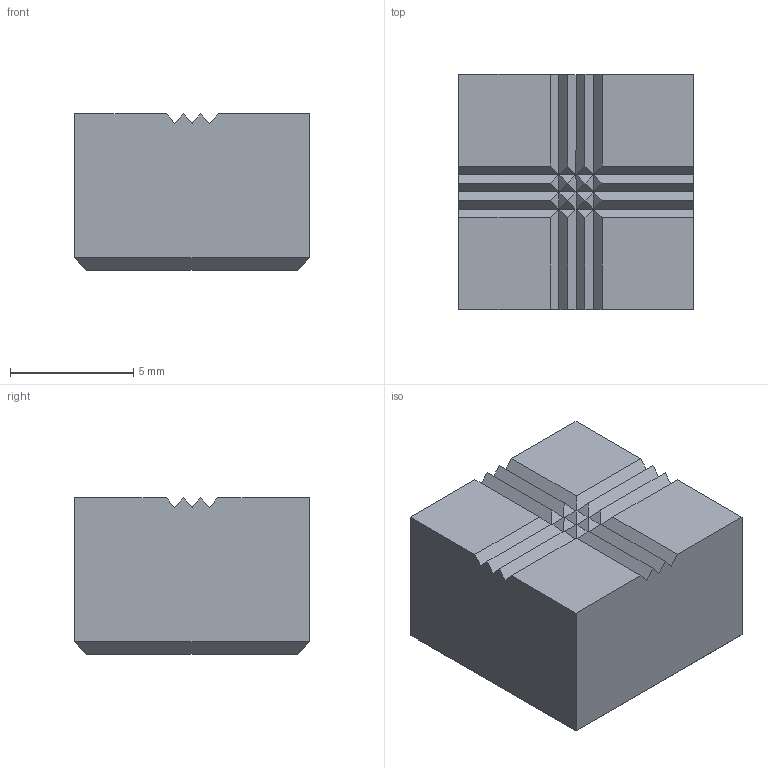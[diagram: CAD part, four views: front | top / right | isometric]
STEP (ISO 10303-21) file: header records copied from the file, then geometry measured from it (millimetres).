
FILE_DESCRIPTION((''),'2;1');
FILE_NAME('3532W001.stp','2001-04-09T10:39:11',(''),(''),'AutoCAD STEP 2000i','AutoCAD 2000i',', , ');
FILE_SCHEMA(('CONFIG_CONTROL_DESIGN'));
Length unit declared in the file: millimetre
Products named in the file (2): 3532C-MDTA; 3532C-MDT
Assembly tree (1 placements, depth 2):
  3532C-MDTA
    3532C-MDT
Bounding box: 9.53 x 9.53 x 6.35 mm (x, y, z)
Volume: 564.7 mm3; surface area: 428.9 mm2
Topology: 1 solids, 1 shells, 61 faces, 124 edges, 65 vertices
Faces by surface type: plane 61
Entity records: 1603 total; most frequent: CARTESIAN_POINT 252, DIRECTION 250, ORIENTED_EDGE 248, VECTOR 124, LINE 124, EDGE_CURVE 124, VERTEX_POINT 65, AXIS2_PLACEMENT_3D 63
